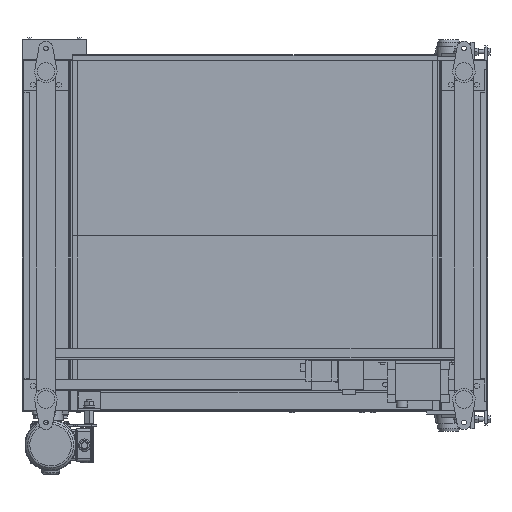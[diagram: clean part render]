
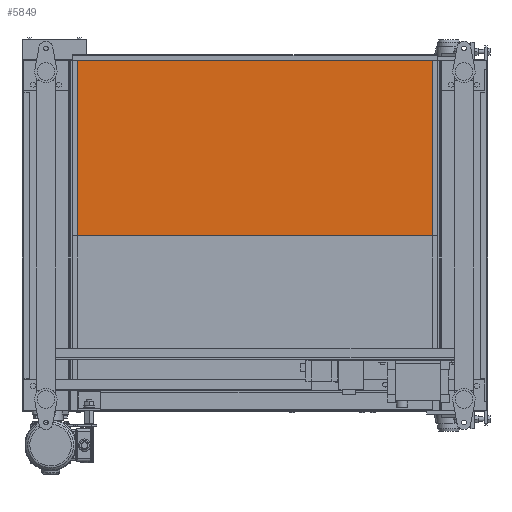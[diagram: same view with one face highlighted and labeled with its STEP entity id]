
A CAD part, front view. The second image highlights one B-rep face of the part: STEP entity #5849.
In plain terms, the highlighted planar face has unit normal (0, -1, 0).
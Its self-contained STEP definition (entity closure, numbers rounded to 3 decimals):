
#5849=ADVANCED_FACE('',(#33873),#33872,.F.);
#33872=PLANE('',#52205);
#33873=FACE_OUTER_BOUND('',#52206,.T.);
#52202=CARTESIAN_POINT('',(127.5,-165.,-10.));
#52203=DIRECTION('',(0.,1.,0.));
#52204=DIRECTION('',(0.,0.,1.));
#52205=AXIS2_PLACEMENT_3D('',#52202,#52203,#52204);
#52206=EDGE_LOOP('',(#70019,#70020,#70021,#70022));
#70019=ORIENTED_EDGE('',*,*,#79673,.F.);
#70020=ORIENTED_EDGE('',*,*,#79679,.F.);
#70021=ORIENTED_EDGE('',*,*,#79680,.F.);
#70022=ORIENTED_EDGE('',*,*,#79681,.F.);
#79673=EDGE_CURVE('',#131865,#131866,#131867,.T.);
#79679=EDGE_CURVE('',#131904,#131865,#131905,.T.);
#79680=EDGE_CURVE('',#131911,#131904,#131912,.T.);
#79681=EDGE_CURVE('',#131866,#131911,#131918,.T.);
#131865=VERTEX_POINT('',#168427);
#131866=VERTEX_POINT('',#168428);
#131867=LINE('',#168429,#168430);
#131904=VERTEX_POINT('',#168448);
#131905=LINE('',#168449,#168450);
#131911=VERTEX_POINT('',#168452);
#131912=LINE('',#168453,#168454);
#131918=LINE('',#168456,#168457);
#168427=CARTESIAN_POINT('',(137.5,-165.,0.));
#168428=CARTESIAN_POINT('',(137.5,-165.,478.2));
#168429=CARTESIAN_POINT('',(137.5,-165.,0.));
#168430=VECTOR('',#168431,478.2);
#168431=DIRECTION('',(0.,0.,1.));
#168448=CARTESIAN_POINT('',(1132.5,-165.,0.));
#168449=CARTESIAN_POINT('',(1132.5,-165.,0.));
#168450=VECTOR('',#168451,995.);
#168451=DIRECTION('',(-1.,0.,0.));
#168452=CARTESIAN_POINT('',(1132.5,-165.,478.2));
#168453=CARTESIAN_POINT('',(1132.5,-165.,478.2));
#168454=VECTOR('',#168455,478.2);
#168455=DIRECTION('',(0.,0.,-1.));
#168456=CARTESIAN_POINT('',(137.5,-165.,478.2));
#168457=VECTOR('',#168458,995.);
#168458=DIRECTION('',(1.,0.,0.));
